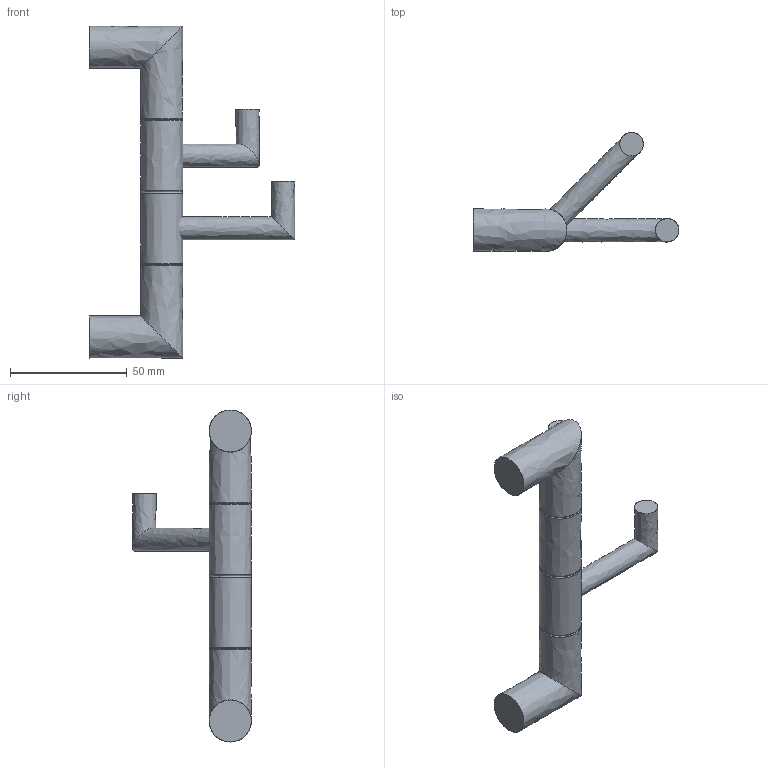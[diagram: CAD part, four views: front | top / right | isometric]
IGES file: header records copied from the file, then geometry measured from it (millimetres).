
Global section: file name: /Users/f/Desktop/I/AM242.igs; native system: Rhinoceros ( Jul 22 2010 ); preprocessor: Trout Lake IGES 012 Jul 22 2010; date: 100723.151145; units: millimetre
Bounding box: 88 x 50.77 x 142 mm (x, y, z)
Surface area: 17334.7 mm2 (no closed solid volume)
Topology: 0 solids, 0 shells, 28 faces, 508 edges, 500 vertices
Faces by surface type: bspline 28
